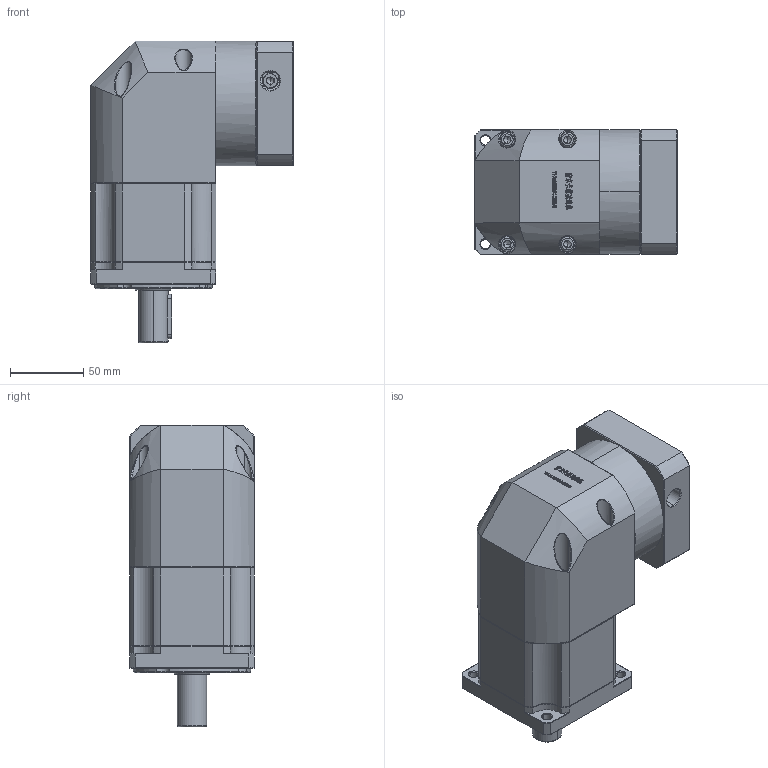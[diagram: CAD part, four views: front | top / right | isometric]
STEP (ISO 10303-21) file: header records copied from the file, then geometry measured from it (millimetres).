
FILE_DESCRIPTION (( 'STEP AP214' ), '1' );
FILE_NAME ('ZBR90-D20-L2-14-73-69.5X69.5-M6.step', '2022-05-07T15:09:01', ( '' ), ( 'Microsoft' ), 'SwSTEP 2.0', 'SolidWorks 2016', '' );
FILE_SCHEMA (( 'AUTOMOTIVE_DESIGN' ));
Length unit declared in the file: millimetre
Products named in the file (1): ZBR90-D20-L2-14-73-69.5X69.5-M6
Bounding box: 137.6 x 85 x 205.5 mm (x, y, z)
Volume: 1304925.6 mm3; surface area: 135711.3 mm2
Topology: 5 solids, 5 shells, 3003 faces, 7947 edges, 5078 vertices
Faces by surface type: plane 1577, bspline 603, cylinder 447, cone 350, torus 26
Entity records: 162994 total; most frequent: CARTESIAN_POINT 60451, ORIENTED_EDGE 15818, DIRECTION 12056, EDGE_CURVE 7909, VECTOR 5280, LINE 5280, VERTEX_POINT 5078, AXIS2_PLACEMENT_3D 3388
